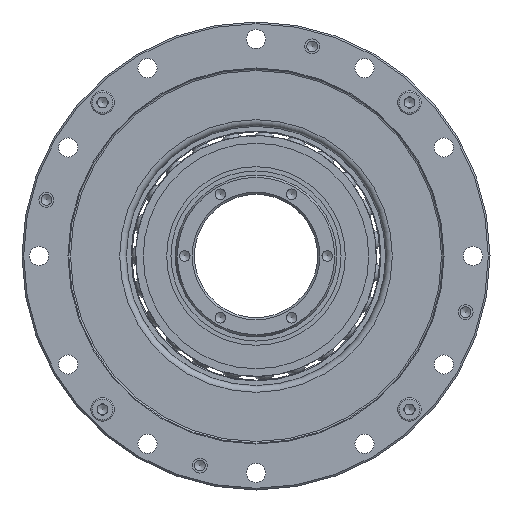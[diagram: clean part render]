
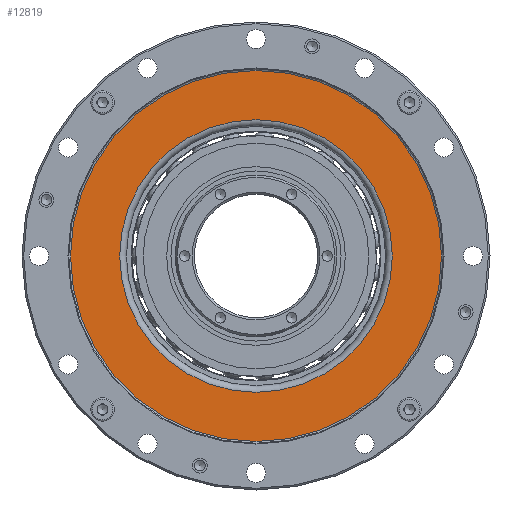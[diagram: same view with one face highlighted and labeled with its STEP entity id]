
A CAD part, left-side view. The second image highlights one B-rep face of the part: STEP entity #12819.
In plain terms, the highlighted planar face has unit normal (-1, 0, 0).
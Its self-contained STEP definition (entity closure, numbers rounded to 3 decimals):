
#730 = CARTESIAN_POINT ( 'NONE',  ( 12.95, 0., 43.6 ) ) ;
#1055 = CARTESIAN_POINT ( 'NONE',  ( 12.95, 0., 32.036 ) ) ;
#1700 = CIRCLE ( 'NONE', #7322, 32.036 ) ;
#2287 = DIRECTION ( 'NONE',  ( 1., 0., 0. ) ) ;
#2333 = DIRECTION ( 'NONE',  ( 1., 0., 0. ) ) ;
#3091 = AXIS2_PLACEMENT_3D ( 'NONE', #7442, #13921, #6525 ) ;
#3896 = FACE_OUTER_BOUND ( 'NONE', #10242, .T. ) ;
#5385 = CARTESIAN_POINT ( 'NONE',  ( 12.95, 0., 0. ) ) ;
#5429 = VERTEX_POINT ( 'NONE', #1055 ) ;
#6143 = VERTEX_POINT ( 'NONE', #730 ) ;
#6525 = DIRECTION ( 'NONE',  ( 0., 0., 1. ) ) ;
#6636 = DIRECTION ( 'NONE',  ( 0., 0., 1. ) ) ;
#7322 = AXIS2_PLACEMENT_3D ( 'NONE', #5385, #2333, #6636 ) ;
#7442 = CARTESIAN_POINT ( 'NONE',  ( 12.95, 0., 0. ) ) ;
#8022 = EDGE_LOOP ( 'NONE', ( #9869 ) ) ;
#8177 = PLANE ( 'NONE',  #9103 ) ;
#9103 = AXIS2_PLACEMENT_3D ( 'NONE', #9494, #2287, #13154 ) ;
#9150 = CIRCLE ( 'NONE', #3091, 43.6 ) ;
#9494 = CARTESIAN_POINT ( 'NONE',  ( 12.95, -30.536, 0. ) ) ;
#9869 = ORIENTED_EDGE ( 'NONE', *, *, #11969, .T. ) ;
#10242 = EDGE_LOOP ( 'NONE', ( #13769 ) ) ;
#10657 = EDGE_CURVE ( 'NONE', #6143, #6143, #9150, .T. ) ;
#11969 = EDGE_CURVE ( 'NONE', #5429, #5429, #1700, .T. ) ;
#12819 = ADVANCED_FACE ( 'NONE', ( #13666, #3896 ), #8177, .F. ) ;
#13154 = DIRECTION ( 'NONE',  ( 0., 0., 1. ) ) ;
#13666 = FACE_BOUND ( 'NONE', #8022, .T. ) ;
#13769 = ORIENTED_EDGE ( 'NONE', *, *, #10657, .T. ) ;
#13921 = DIRECTION ( 'NONE',  ( -1., 0., 0. ) ) ;
